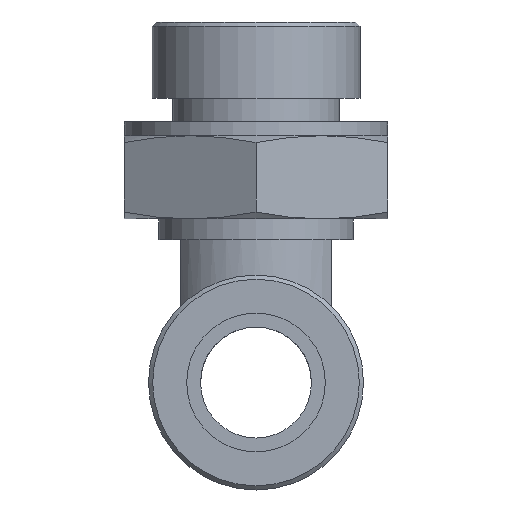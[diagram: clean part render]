
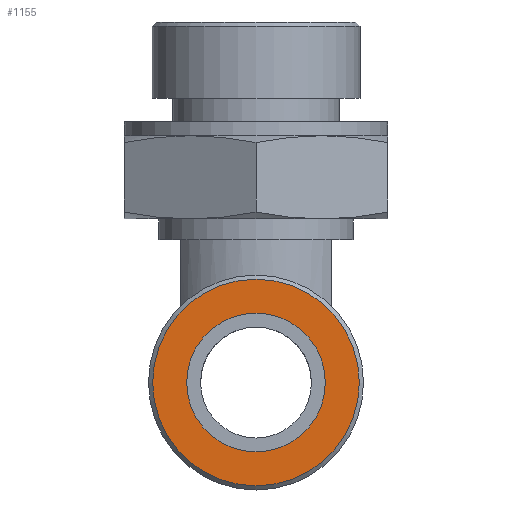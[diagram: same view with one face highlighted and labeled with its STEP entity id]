
A CAD part, front view. The second image highlights one B-rep face of the part: STEP entity #1155.
In plain terms, the highlighted planar face has unit normal (0, -1, 0).
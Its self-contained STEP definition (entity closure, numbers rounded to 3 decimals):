
#85=FACE_BOUND('',#278,.T.);
#116=PLANE('',#1370);
#189=FACE_OUTER_BOUND('',#277,.T.);
#277=EDGE_LOOP('',(#987));
#278=EDGE_LOOP('',(#988));
#425=CIRCLE('',#1288,5.);
#461=CIRCLE('',#1367,7.45);
#511=VERTEX_POINT('',#1894);
#565=VERTEX_POINT('',#2127);
#621=EDGE_CURVE('',#511,#511,#425,.T.);
#712=EDGE_CURVE('',#565,#565,#461,.T.);
#987=ORIENTED_EDGE('',*,*,#712,.F.);
#988=ORIENTED_EDGE('',*,*,#621,.T.);
#1155=ADVANCED_FACE('',(#189,#85),#116,.F.);
#1288=AXIS2_PLACEMENT_3D('',#1895,#1511,#1512);
#1367=AXIS2_PLACEMENT_3D('',#2129,#1698,#1699);
#1370=AXIS2_PLACEMENT_3D('',#2134,#1705,#1706);
#1511=DIRECTION('center_axis',(0.,1.,0.));
#1512=DIRECTION('ref_axis',(1.,0.,0.));
#1698=DIRECTION('center_axis',(0.,1.,0.));
#1699=DIRECTION('ref_axis',(-1.,0.,0.));
#1705=DIRECTION('center_axis',(0.,1.,0.));
#1706=DIRECTION('ref_axis',(0.,0.,1.));
#1894=CARTESIAN_POINT('',(-5.,-25.8,0.));
#1895=CARTESIAN_POINT('Origin',(0.,-25.8,0.));
#2127=CARTESIAN_POINT('',(7.45,-25.8,0.));
#2129=CARTESIAN_POINT('Origin',(0.,-25.8,0.));
#2134=CARTESIAN_POINT('Origin',(0.,-25.8,0.));
